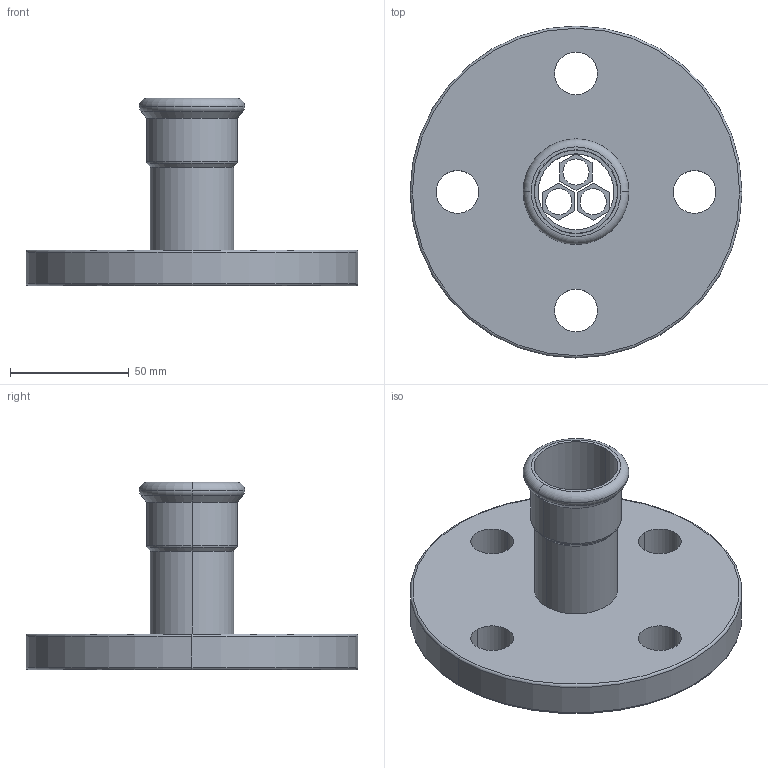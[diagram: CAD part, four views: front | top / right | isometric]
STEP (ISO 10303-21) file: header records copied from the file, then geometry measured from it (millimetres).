
FILE_DESCRIPTION(('OneSpaceDesigner STEP Export'),'2;1');
FILE_NAME('R2726 35.stp','2010-06-10T13:10:40',(''),(''),'OneSpace Designer STEP processor for AP214 (Solid Model)','OneSpace Modeling 15.00A 14-Mar-2007 (C) CoCreate Software GmbH','');
FILE_SCHEMA(('AUTOMOTIVE_DESIGN { 1 0 10303 214 1 1 1 1 }'));
Length unit declared in the file: millimetre
Products named in the file (2): R2726_35
Assembly tree (1 placements, depth 2):
  R2726_35
    R2726_35
Bounding box: 140 x 140 x 79 mm (x, y, z)
Volume: 217375.6 mm3; surface area: 54103.4 mm2
Topology: 1 solids, 1 shells, 75 faces, 185 edges, 118 vertices
Faces by surface type: plane 32, cylinder 29, torus 10, cone 4
Entity records: 1984 total; most frequent: ORIENTED_EDGE 370, CARTESIAN_POINT 314, DIRECTION 293, EDGE_CURVE 185, VERTEX_POINT 118, VECTOR 99, LINE 99, AXIS2_PLACEMENT_3D 97
